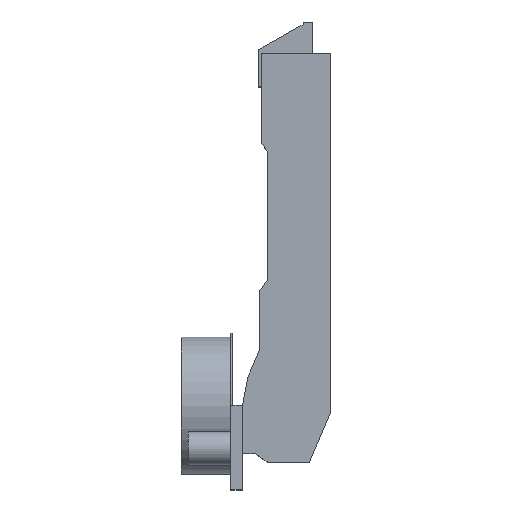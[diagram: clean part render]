
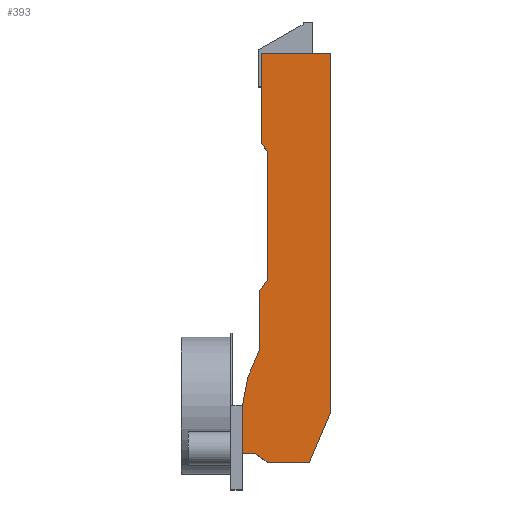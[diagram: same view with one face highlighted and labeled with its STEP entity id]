
A CAD part, top view. The second image highlights one B-rep face of the part: STEP entity #393.
In plain terms, the highlighted planar face has unit normal (0, 0, 1).
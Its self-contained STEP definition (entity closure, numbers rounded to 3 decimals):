
#113 = FACE_OUTER_BOUND ( 'NONE', #1371, .T. ) ;
#144 = LINE ( 'NONE', #607, #158 ) ;
#158 = VECTOR ( 'NONE', #597, 1000. ) ;
#171 = LINE ( 'NONE', #567, #177 ) ;
#177 = VECTOR ( 'NONE', #856, 1000. ) ;
#196 = LINE ( 'NONE', #944, #197 ) ;
#197 = VECTOR ( 'NONE', #1111, 1000. ) ;
#198 = LINE ( 'NONE', #981, #211 ) ;
#204 = VECTOR ( 'NONE', #966, 1000. ) ;
#211 = VECTOR ( 'NONE', #977, 1000. ) ;
#213 = LINE ( 'NONE', #962, #220 ) ;
#214 = LINE ( 'NONE', #974, #204 ) ;
#220 = VECTOR ( 'NONE', #950, 1000. ) ;
#230 = LINE ( 'NONE', #1025, #235 ) ;
#235 = VECTOR ( 'NONE', #1024, 1000. ) ;
#244 = LINE ( 'NONE', #1017, #245 ) ;
#245 = VECTOR ( 'NONE', #1018, 1000. ) ;
#246 = LINE ( 'NONE', #1003, #247 ) ;
#247 = VECTOR ( 'NONE', #1002, 1000. ) ;
#282 = LINE ( 'NONE', #1083, #284 ) ;
#284 = VECTOR ( 'NONE', #1082, 1000. ) ;
#289 = LINE ( 'NONE', #947, #297 ) ;
#290 = LINE ( 'NONE', #1100, #309 ) ;
#297 = VECTOR ( 'NONE', #1130, 1000. ) ;
#304 = LINE ( 'NONE', #1150, #340 ) ;
#309 = VECTOR ( 'NONE', #1145, 1000. ) ;
#317 = LINE ( 'NONE', #1132, #318 ) ;
#318 = VECTOR ( 'NONE', #1156, 1000. ) ;
#340 = VECTOR ( 'NONE', #1147, 1000. ) ;
#393 = ADVANCED_FACE ( 'NONE', ( #113 ), #724, .T. ) ;
#426 = VERTEX_POINT ( 'NONE', #786 ) ;
#428 = VERTEX_POINT ( 'NONE', #792 ) ;
#430 = VERTEX_POINT ( 'NONE', #778 ) ;
#431 = VERTEX_POINT ( 'NONE', #777 ) ;
#433 = VERTEX_POINT ( 'NONE', #780 ) ;
#436 = VERTEX_POINT ( 'NONE', #784 ) ;
#440 = VERTEX_POINT ( 'NONE', #773 ) ;
#444 = VERTEX_POINT ( 'NONE', #590 ) ;
#452 = VERTEX_POINT ( 'NONE', #650 ) ;
#456 = VERTEX_POINT ( 'NONE', #803 ) ;
#481 = VERTEX_POINT ( 'NONE', #849 ) ;
#483 = VERTEX_POINT ( 'NONE', #818 ) ;
#567 = CARTESIAN_POINT ( 'NONE',  ( 6., 32.108, 8.5 ) ) ;
#590 = CARTESIAN_POINT ( 'NONE',  ( 4.5, 67.242, 8.5 ) ) ;
#597 = DIRECTION ( 'NONE',  ( -1., 0., 0. ) ) ;
#607 = CARTESIAN_POINT ( 'NONE',  ( 22.25, 90.1, 8.5 ) ) ;
#643 = CARTESIAN_POINT ( 'NONE',  ( 16.783, -14.594, 8.5 ) ) ;
#648 = CARTESIAN_POINT ( 'NONE',  ( 22.25, -1.744, 8.5 ) ) ;
#650 = CARTESIAN_POINT ( 'NONE',  ( 22.25, 90.1, 8.5 ) ) ;
#722 = DIRECTION ( 'NONE',  ( 0., 0., 1. ) ) ;
#724 = PLANE ( 'NONE',  #1262 ) ;
#727 = CARTESIAN_POINT ( 'NONE',  ( -0.3, -12.294, 8.5 ) ) ;
#743 = DIRECTION ( 'NONE',  ( 0., -1., 0. ) ) ;
#764 = VERTEX_POINT ( 'NONE', #648 ) ;
#771 = VERTEX_POINT ( 'NONE', #643 ) ;
#773 = CARTESIAN_POINT ( 'NONE',  ( 6., 65.1, 8.5 ) ) ;
#777 = CARTESIAN_POINT ( 'NONE',  ( 3.01, -12.294, 8.5 ) ) ;
#778 = CARTESIAN_POINT ( 'NONE',  ( 4.01, 14.096, 8.5 ) ) ;
#780 = CARTESIAN_POINT ( 'NONE',  ( 4.01, 29.266, 8.5 ) ) ;
#784 = CARTESIAN_POINT ( 'NONE',  ( 6., 32.108, 8.5 ) ) ;
#786 = CARTESIAN_POINT ( 'NONE',  ( -0.3, 0., 8.5 ) ) ;
#792 = CARTESIAN_POINT ( 'NONE',  ( 1.11, 7.296, 8.5 ) ) ;
#803 = CARTESIAN_POINT ( 'NONE',  ( 4.5, 90.1, 8.5 ) ) ;
#818 = CARTESIAN_POINT ( 'NONE',  ( 6.295, -14.594, 8.5 ) ) ;
#849 = CARTESIAN_POINT ( 'NONE',  ( -0.3, -12.294, 8.5 ) ) ;
#856 = DIRECTION ( 'NONE',  ( 0., -1., 0. ) ) ;
#944 = CARTESIAN_POINT ( 'NONE',  ( -0.3, -12.294, 8.5 ) ) ;
#947 = CARTESIAN_POINT ( 'NONE',  ( 1.11, 7.296, 8.5 ) ) ;
#950 = DIRECTION ( 'NONE',  ( 0.392, 0.92, 0. ) ) ;
#962 = CARTESIAN_POINT ( 'NONE',  ( 16.783, -14.594, 8.5 ) ) ;
#966 = DIRECTION ( 'NONE',  ( 0.819, -0.574, 0. ) ) ;
#974 = CARTESIAN_POINT ( 'NONE',  ( 3.01, -12.294, 8.5 ) ) ;
#977 = DIRECTION ( 'NONE',  ( 0., -1., 0. ) ) ;
#981 = CARTESIAN_POINT ( 'NONE',  ( 4.5, 67.242, 8.5 ) ) ;
#1002 = DIRECTION ( 'NONE',  ( 0.574, -0.819, 0. ) ) ;
#1003 = CARTESIAN_POINT ( 'NONE',  ( 6., 65.1, 8.5 ) ) ;
#1017 = CARTESIAN_POINT ( 'NONE',  ( 22.25, -1.744, 8.5 ) ) ;
#1018 = DIRECTION ( 'NONE',  ( 0., 1., 0. ) ) ;
#1024 = DIRECTION ( 'NONE',  ( 1., 0., 0. ) ) ;
#1025 = CARTESIAN_POINT ( 'NONE',  ( 6.295, -14.594, 8.5 ) ) ;
#1082 = DIRECTION ( 'NONE',  ( -0.574, -0.819, 0. ) ) ;
#1083 = CARTESIAN_POINT ( 'NONE',  ( 4.01, 29.266, 8.5 ) ) ;
#1100 = CARTESIAN_POINT ( 'NONE',  ( 4.01, 14.096, 8.5 ) ) ;
#1111 = DIRECTION ( 'NONE',  ( 1., 0., 0. ) ) ;
#1130 = DIRECTION ( 'NONE',  ( -0.392, -0.92, 0. ) ) ;
#1132 = CARTESIAN_POINT ( 'NONE',  ( -0.3, 0., 8.5 ) ) ;
#1145 = DIRECTION ( 'NONE',  ( 0., -1., 0. ) ) ;
#1147 = DIRECTION ( 'NONE',  ( 0., -1., 0. ) ) ;
#1150 = CARTESIAN_POINT ( 'NONE',  ( -0.3, 0., 8.5 ) ) ;
#1156 = DIRECTION ( 'NONE',  ( -0.19, -0.982, 0. ) ) ;
#1170 = EDGE_CURVE ( 'NONE', #452, #456, #144, .T. ) ;
#1182 = EDGE_CURVE ( 'NONE', #440, #436, #171, .T. ) ;
#1194 = EDGE_CURVE ( 'NONE', #481, #431, #196, .T. ) ;
#1202 = EDGE_CURVE ( 'NONE', #456, #444, #198, .T. ) ;
#1204 = EDGE_CURVE ( 'NONE', #431, #483, #214, .T. ) ;
#1207 = EDGE_CURVE ( 'NONE', #771, #764, #213, .T. ) ;
#1220 = EDGE_CURVE ( 'NONE', #483, #771, #230, .T. ) ;
#1221 = EDGE_CURVE ( 'NONE', #764, #452, #244, .T. ) ;
#1222 = EDGE_CURVE ( 'NONE', #444, #440, #246, .T. ) ;
#1262 = AXIS2_PLACEMENT_3D ( 'NONE', #727, #722, #743 ) ;
#1307 = EDGE_CURVE ( 'NONE', #436, #433, #282, .T. ) ;
#1312 = EDGE_CURVE ( 'NONE', #430, #428, #289, .T. ) ;
#1317 = EDGE_CURVE ( 'NONE', #433, #430, #290, .T. ) ;
#1321 = EDGE_CURVE ( 'NONE', #428, #426, #317, .T. ) ;
#1333 = EDGE_CURVE ( 'NONE', #426, #481, #304, .T. ) ;
#1371 = EDGE_LOOP ( 'NONE', ( #1481, #1482, #1483, #1484, #1485, #1486, #1487, #1488, #1489, #1490, #1491, #1492, #1493, #1494 ) ) ;
#1481 = ORIENTED_EDGE ( 'NONE', *, *, #1333, .T. ) ;
#1482 = ORIENTED_EDGE ( 'NONE', *, *, #1194, .T. ) ;
#1483 = ORIENTED_EDGE ( 'NONE', *, *, #1204, .T. ) ;
#1484 = ORIENTED_EDGE ( 'NONE', *, *, #1220, .T. ) ;
#1485 = ORIENTED_EDGE ( 'NONE', *, *, #1207, .T. ) ;
#1486 = ORIENTED_EDGE ( 'NONE', *, *, #1221, .T. ) ;
#1487 = ORIENTED_EDGE ( 'NONE', *, *, #1170, .T. ) ;
#1488 = ORIENTED_EDGE ( 'NONE', *, *, #1202, .T. ) ;
#1489 = ORIENTED_EDGE ( 'NONE', *, *, #1222, .T. ) ;
#1490 = ORIENTED_EDGE ( 'NONE', *, *, #1182, .T. ) ;
#1491 = ORIENTED_EDGE ( 'NONE', *, *, #1307, .T. ) ;
#1492 = ORIENTED_EDGE ( 'NONE', *, *, #1317, .T. ) ;
#1493 = ORIENTED_EDGE ( 'NONE', *, *, #1312, .T. ) ;
#1494 = ORIENTED_EDGE ( 'NONE', *, *, #1321, .T. ) ;
